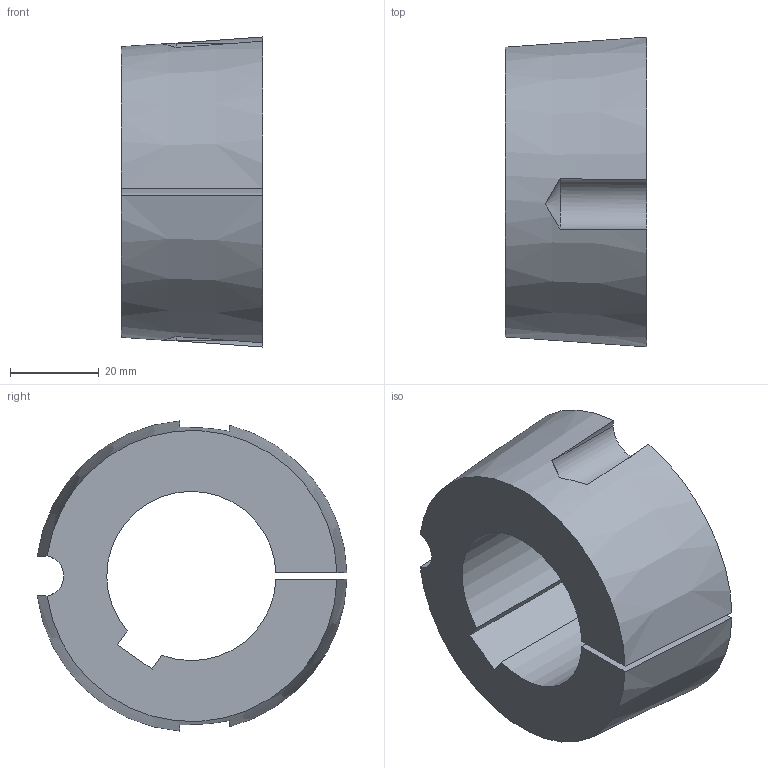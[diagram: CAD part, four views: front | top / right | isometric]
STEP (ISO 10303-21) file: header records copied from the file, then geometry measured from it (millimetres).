
FILE_DESCRIPTION( ( '' ), '1' );
FILE_NAME( 'C:/Users/StangenbergN/Desktop/06.02.2019_steps/6225053810.stp', '2019-02-06T20:01:58', ( '' ), ( '' ), ' ', ' ', ' ' );
FILE_SCHEMA( ( 'CONFIG_CONTROL_DESIGN' ) );
Length unit declared in the file: millimetre
Products named in the file (1): 1
Bounding box: 31.8 x 69.72 x 69.81 mm (x, y, z)
Volume: 73188.6 mm3; surface area: 16850.4 mm2
Topology: 1 solids, 1 shells, 24 faces, 64 edges, 42 vertices
Faces by surface type: cylinder 11, plane 7, cone 6
Entity records: 972 total; most frequent: CARTESIAN_POINT 331, ORIENTED_EDGE 128, DIRECTION 126, EDGE_CURVE 64, AXIS2_PLACEMENT_3D 51, VERTEX_POINT 42, CIRCLE 26, ADVANCED_FACE 24
